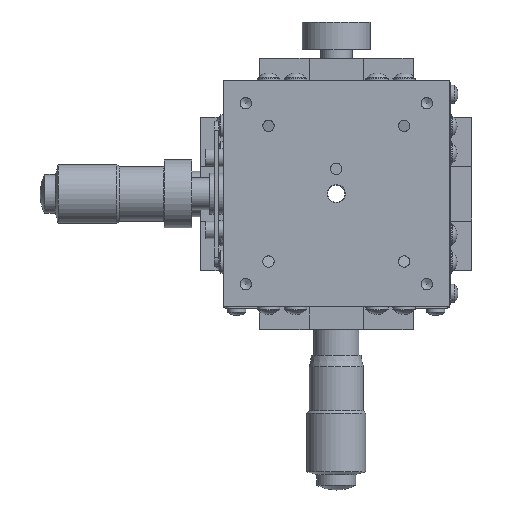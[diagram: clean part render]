
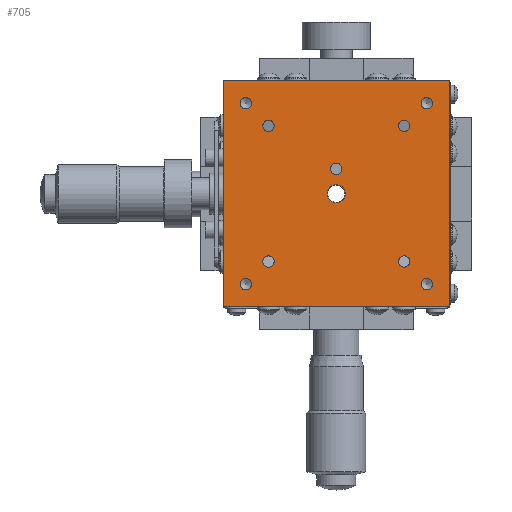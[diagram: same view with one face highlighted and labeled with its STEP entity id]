
A CAD part, top view. The second image highlights one B-rep face of the part: STEP entity #705.
In plain terms, the highlighted planar face has unit normal (0, 0, 1).
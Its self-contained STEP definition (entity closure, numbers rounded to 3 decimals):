
#705 = ADVANCED_FACE( '', ( #1757, #1758, #1759, #1760, #1761, #1762, #1763, #1764, #1765, #1766, #1767 ), #1768, .T. );
#1757 = FACE_BOUND( '', #3016, .T. );
#1758 = FACE_BOUND( '', #3017, .T. );
#1759 = FACE_BOUND( '', #3018, .T. );
#1760 = FACE_BOUND( '', #3019, .T. );
#1761 = FACE_BOUND( '', #3020, .T. );
#1762 = FACE_BOUND( '', #3021, .T. );
#1763 = FACE_BOUND( '', #3022, .T. );
#1764 = FACE_BOUND( '', #3023, .T. );
#1765 = FACE_BOUND( '', #3024, .T. );
#1766 = FACE_BOUND( '', #3025, .T. );
#1767 = FACE_OUTER_BOUND( '', #3026, .T. );
#1768 = PLANE( '', #3027 );
#3016 = EDGE_LOOP( '', ( #6131 ) );
#3017 = EDGE_LOOP( '', ( #6132 ) );
#3018 = EDGE_LOOP( '', ( #6133 ) );
#3019 = EDGE_LOOP( '', ( #6134 ) );
#3020 = EDGE_LOOP( '', ( #6135 ) );
#3021 = EDGE_LOOP( '', ( #6136 ) );
#3022 = EDGE_LOOP( '', ( #6137 ) );
#3023 = EDGE_LOOP( '', ( #6138 ) );
#3024 = EDGE_LOOP( '', ( #6139 ) );
#3025 = EDGE_LOOP( '', ( #6140 ) );
#3026 = EDGE_LOOP( '', ( #6141, #6142, #6143, #6144 ) );
#3027 = AXIS2_PLACEMENT_3D( '', #6145, #6146, #6147 );
#6131 = ORIENTED_EDGE( '', *, *, #7719, .T. );
#6132 = ORIENTED_EDGE( '', *, *, #7720, .F. );
#6133 = ORIENTED_EDGE( '', *, *, #7721, .T. );
#6134 = ORIENTED_EDGE( '', *, *, #7722, .T. );
#6135 = ORIENTED_EDGE( '', *, *, #7723, .T. );
#6136 = ORIENTED_EDGE( '', *, *, #7724, .T. );
#6137 = ORIENTED_EDGE( '', *, *, #7725, .T. );
#6138 = ORIENTED_EDGE( '', *, *, #7726, .T. );
#6139 = ORIENTED_EDGE( '', *, *, #7727, .T. );
#6140 = ORIENTED_EDGE( '', *, *, #7728, .T. );
#6141 = ORIENTED_EDGE( '', *, *, #7729, .F. );
#6142 = ORIENTED_EDGE( '', *, *, #7717, .F. );
#6143 = ORIENTED_EDGE( '', *, *, #7730, .F. );
#6144 = ORIENTED_EDGE( '', *, *, #7731, .F. );
#6145 = CARTESIAN_POINT( '', ( 0., 0., 36. ) );
#6146 = DIRECTION( '', ( 0., 0., 1. ) );
#6147 = DIRECTION( '', ( 1., 0., 0. ) );
#7717 = EDGE_CURVE( '', #9311, #9313, #9314, .T. );
#7719 = EDGE_CURVE( '', #9316, #9316, #9317, .T. );
#7720 = EDGE_CURVE( '', #9318, #9318, #9319, .T. );
#7721 = EDGE_CURVE( '', #9320, #9320, #9321, .T. );
#7722 = EDGE_CURVE( '', #9322, #9322, #9323, .T. );
#7723 = EDGE_CURVE( '', #9324, #9324, #9325, .T. );
#7724 = EDGE_CURVE( '', #9326, #9326, #9327, .T. );
#7725 = EDGE_CURVE( '', #9328, #9328, #9329, .T. );
#7726 = EDGE_CURVE( '', #9330, #9330, #9331, .T. );
#7727 = EDGE_CURVE( '', #9332, #9332, #9333, .T. );
#7728 = EDGE_CURVE( '', #9334, #9334, #9335, .T. );
#7729 = EDGE_CURVE( '', #9313, #9336, #9337, .T. );
#7730 = EDGE_CURVE( '', #9338, #9311, #9339, .T. );
#7731 = EDGE_CURVE( '', #9336, #9338, #9340, .T. );
#9311 = VERTEX_POINT( '', #12275 );
#9313 = VERTEX_POINT( '', #12278 );
#9314 = LINE( '', #12279, #12280 );
#9316 = VERTEX_POINT( '', #12283 );
#9317 = CIRCLE( '', #12284, 2. );
#9318 = VERTEX_POINT( '', #12285 );
#9319 = CIRCLE( '', #12286, 1.25 );
#9320 = VERTEX_POINT( '', #12287 );
#9321 = CIRCLE( '', #12288, 1.25 );
#9322 = VERTEX_POINT( '', #12289 );
#9323 = CIRCLE( '', #12290, 1.25 );
#9324 = VERTEX_POINT( '', #12291 );
#9325 = CIRCLE( '', #12292, 1.25 );
#9326 = VERTEX_POINT( '', #12293 );
#9327 = CIRCLE( '', #12294, 1.25 );
#9328 = VERTEX_POINT( '', #12295 );
#9329 = CIRCLE( '', #12296, 1.25 );
#9330 = VERTEX_POINT( '', #12297 );
#9331 = CIRCLE( '', #12298, 1.25 );
#9332 = VERTEX_POINT( '', #12299 );
#9333 = CIRCLE( '', #12300, 1.25 );
#9334 = VERTEX_POINT( '', #12301 );
#9335 = CIRCLE( '', #12302, 1.25 );
#9336 = VERTEX_POINT( '', #12303 );
#9337 = LINE( '', #12304, #12305 );
#9338 = VERTEX_POINT( '', #12306 );
#9339 = LINE( '', #12307, #12308 );
#9340 = LINE( '', #12309, #12310 );
#12275 = CARTESIAN_POINT( '', ( 25., 25., 36. ) );
#12278 = CARTESIAN_POINT( '', ( 25., -25., 36. ) );
#12279 = CARTESIAN_POINT( '', ( 25., 0., 36. ) );
#12280 = VECTOR( '', #14291, 1000. );
#12283 = CARTESIAN_POINT( '', ( 2., 0., 36. ) );
#12284 = AXIS2_PLACEMENT_3D( '', #14293, #14294, #14295 );
#12285 = CARTESIAN_POINT( '', ( 1.25, 5.5, 36. ) );
#12286 = AXIS2_PLACEMENT_3D( '', #14296, #14297, #14298 );
#12287 = CARTESIAN_POINT( '', ( 16.25, -15., 36. ) );
#12288 = AXIS2_PLACEMENT_3D( '', #14299, #14300, #14301 );
#12289 = CARTESIAN_POINT( '', ( -13.75, -15., 36. ) );
#12290 = AXIS2_PLACEMENT_3D( '', #14302, #14303, #14304 );
#12291 = CARTESIAN_POINT( '', ( -13.75, 15., 36. ) );
#12292 = AXIS2_PLACEMENT_3D( '', #14305, #14306, #14307 );
#12293 = CARTESIAN_POINT( '', ( 16.25, 15., 36. ) );
#12294 = AXIS2_PLACEMENT_3D( '', #14308, #14309, #14310 );
#12295 = CARTESIAN_POINT( '', ( 21.25, -20., 36. ) );
#12296 = AXIS2_PLACEMENT_3D( '', #14311, #14312, #14313 );
#12297 = CARTESIAN_POINT( '', ( -18.75, -20., 36. ) );
#12298 = AXIS2_PLACEMENT_3D( '', #14314, #14315, #14316 );
#12299 = CARTESIAN_POINT( '', ( -18.75, 20., 36. ) );
#12300 = AXIS2_PLACEMENT_3D( '', #14317, #14318, #14319 );
#12301 = CARTESIAN_POINT( '', ( 21.25, 20., 36. ) );
#12302 = AXIS2_PLACEMENT_3D( '', #14320, #14321, #14322 );
#12303 = CARTESIAN_POINT( '', ( -25., -25., 36. ) );
#12304 = CARTESIAN_POINT( '', ( 0., -25., 36. ) );
#12305 = VECTOR( '', #14323, 1000. );
#12306 = CARTESIAN_POINT( '', ( -25., 25., 36. ) );
#12307 = CARTESIAN_POINT( '', ( 0., 25., 36. ) );
#12308 = VECTOR( '', #14324, 1000. );
#12309 = CARTESIAN_POINT( '', ( -25., 0., 36. ) );
#12310 = VECTOR( '', #14325, 1000. );
#14291 = DIRECTION( '', ( 0., -1., 0. ) );
#14293 = CARTESIAN_POINT( '', ( 0., 0., 36. ) );
#14294 = DIRECTION( '', ( 0., 0., -1. ) );
#14295 = DIRECTION( '', ( 1., 0., 0. ) );
#14296 = CARTESIAN_POINT( '', ( 0., 5.5, 36. ) );
#14297 = DIRECTION( '', ( 0., 0., 1. ) );
#14298 = DIRECTION( '', ( 1., 0., 0. ) );
#14299 = CARTESIAN_POINT( '', ( 15., -15., 36. ) );
#14300 = DIRECTION( '', ( 0., 0., -1. ) );
#14301 = DIRECTION( '', ( 1., 0., 0. ) );
#14302 = CARTESIAN_POINT( '', ( -15., -15., 36. ) );
#14303 = DIRECTION( '', ( 0., 0., -1. ) );
#14304 = DIRECTION( '', ( 1., 0., 0. ) );
#14305 = CARTESIAN_POINT( '', ( -15., 15., 36. ) );
#14306 = DIRECTION( '', ( 0., 0., -1. ) );
#14307 = DIRECTION( '', ( 1., 0., 0. ) );
#14308 = CARTESIAN_POINT( '', ( 15., 15., 36. ) );
#14309 = DIRECTION( '', ( 0., 0., -1. ) );
#14310 = DIRECTION( '', ( 1., 0., 0. ) );
#14311 = CARTESIAN_POINT( '', ( 20., -20., 36. ) );
#14312 = DIRECTION( '', ( 0., 0., -1. ) );
#14313 = DIRECTION( '', ( 1., 0., 0. ) );
#14314 = CARTESIAN_POINT( '', ( -20., -20., 36. ) );
#14315 = DIRECTION( '', ( 0., 0., -1. ) );
#14316 = DIRECTION( '', ( 1., 0., 0. ) );
#14317 = CARTESIAN_POINT( '', ( -20., 20., 36. ) );
#14318 = DIRECTION( '', ( 0., 0., -1. ) );
#14319 = DIRECTION( '', ( 1., 0., 0. ) );
#14320 = CARTESIAN_POINT( '', ( 20., 20., 36. ) );
#14321 = DIRECTION( '', ( 0., 0., -1. ) );
#14322 = DIRECTION( '', ( 1., 0., 0. ) );
#14323 = DIRECTION( '', ( -1., 0., 0. ) );
#14324 = DIRECTION( '', ( 1., 0., 0. ) );
#14325 = DIRECTION( '', ( 0., 1., 0. ) );
